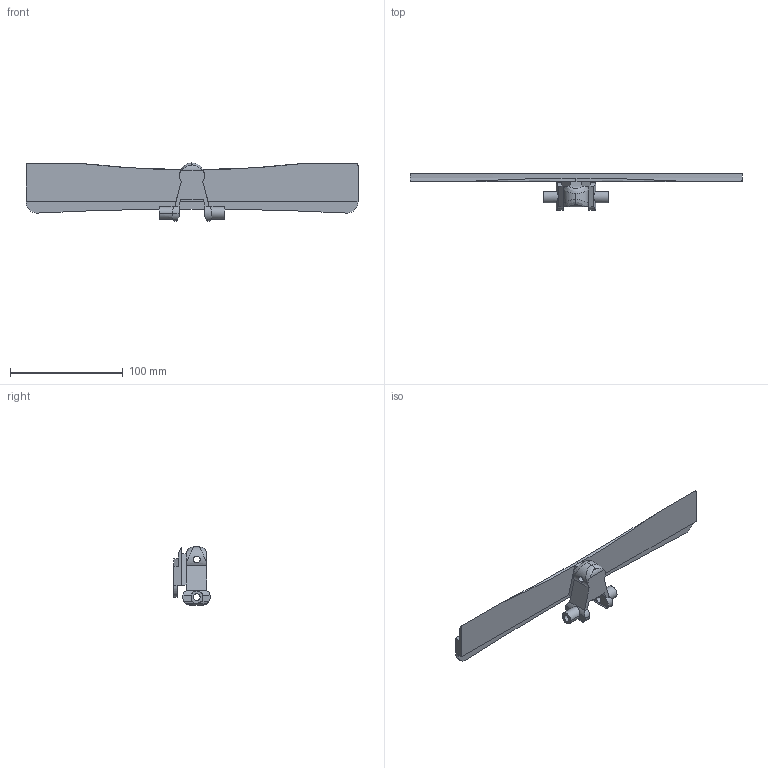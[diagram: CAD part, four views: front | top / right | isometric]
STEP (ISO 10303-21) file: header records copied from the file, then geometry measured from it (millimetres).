
FILE_DESCRIPTION (( 'STEP AP203' ), '1' );
FILE_NAME ('FBTP 3A295A.step', '2016-10-27T02:45:54', ( 'admin' ), ( '' ), 'SwSTEP 2.0', 'SolidWorks 2014', '' );
FILE_SCHEMA (( 'CONFIG_CONTROL_DESIGN' ));
Length unit declared in the file: millimetre
Products named in the file (1): FBTP 3A295A
Bounding box: 295 x 32.5 x 51.61 mm (x, y, z)
Volume: 77057.6 mm3; surface area: 33725.4 mm2
Topology: 1 solids, 1 shells, 81 faces, 242 edges, 161 vertices
Faces by surface type: cylinder 40, plane 38, bspline 3
Entity records: 4222 total; most frequent: CARTESIAN_POINT 2049, ORIENTED_EDGE 484, DIRECTION 385, EDGE_CURVE 242, VERTEX_POINT 161, AXIS2_PLACEMENT_3D 134, VECTOR 117, LINE 117
